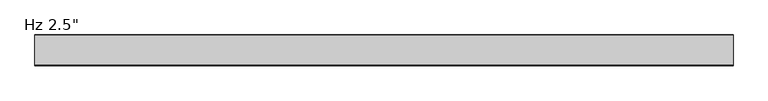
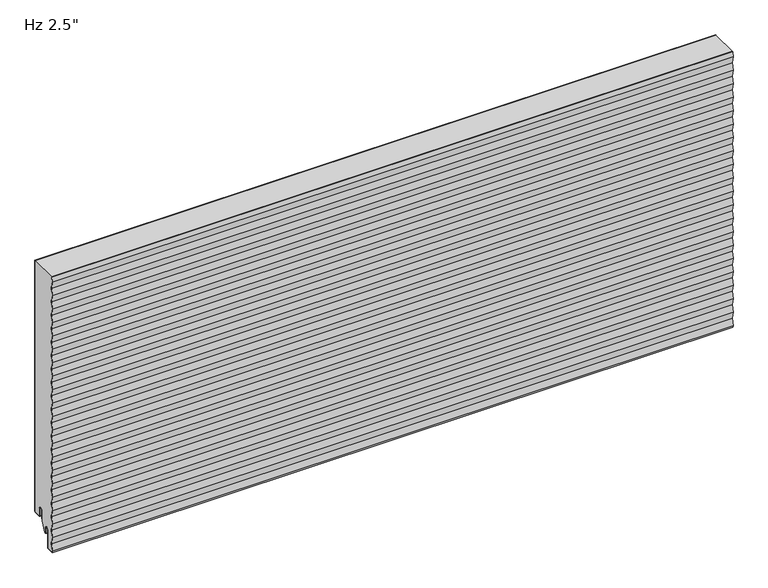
"""IFC4 building model written with IfcOpenShell, lengths in millimetres: plate geometry."""

from ifc_helpers import new_model, si_unit, point, frame, frame_2d, origin, place, context, project, spatial, polyline, circle_curve, trimmed, segment, composite_curve, outline, extrude, source, transform, mapped, element, save


def plate_620f6e40(model_context):
    return source(origin(), model_context, "Body", "SweptSolid", [
        extrude(outline(composite_curve([segment(trimmed(circle_curve(frame_2d((-21.43125, 19.05)), 4.96875), [point((-16.4625, 19.05))], [point((-26.4, 19.05))], True, "CARTESIAN"), True, "CONTINUOUS"), segment(polyline([(-26.4, 19.05), (-26.4, -3.1323422), (-36.5326309, -23.01875), (-38.1, -23.01875), (-38.1, -13.5080174), (-38.89375, -13.5080174), (-38.6875, -11.9205174)]), True, "CONTINUOUS"), segment(trimmed(circle_curve(frame_2d((-43.65625, -11.9205174)), 4.96875), [point((-38.6875, -11.9205174))], [point((-48.625, -11.9205174))], True, "CARTESIAN"), True, "CONTINUOUS"), segment(polyline([(-48.625, -11.9205174), (-48.625, -50.1038221)]), True, "CONTINUOUS"), segment(trimmed(circle_curve(frame_2d((-50.00625, -50.1038221)), 1.38125), [point((-48.625, -50.1038221))], [point((-49.933961, -51.4831791))], False, "CARTESIAN"), True, "CONTINUOUS"), segment(polyline([(-49.933961, -51.4831791), (-63.1062471, -52.1735094), (-63.6378194, -48.8511825), (-61.1994194, -33.6111825), (-63.6378194, -18.3711825), (-61.1994194, -3.1311825), (-63.6378194, 12.1088175), (-61.1994194, 27.3488175), (-63.6378194, 42.5888175), (-61.1994194, 57.8288175), (-63.6378194, 73.0688175), (-61.1994194, 88.3088175), (-63.6378194, 103.5488175), (-61.1994194, 118.7888175), (-63.6378194, 134.0288175), (-61.1994194, 149.2688175), (-63.6378194, 164.5088175), (-61.1994194, 179.7488175), (-63.6378194, 194.9888175), (-61.1994194, 210.2288175), (-63.6378194, 225.4688175), (-61.1994194, 240.7088175), (-63.6378194, 255.9488175), (-61.1994194, 271.1888175), (-63.6378194, 286.4288175), (-61.1994194, 301.6688175), (-63.6378194, 316.9088175), (-61.1994194, 332.1488175), (-63.6378194, 347.3888175), (-61.1994194, 362.6288175), (-63.6378194, 377.8688175), (-61.1994194, 393.1088175), (-63.6378194, 408.3488175), (-61.1994194, 423.5888175), (-63.6378194, 438.8288175), (-61.1994194, 454.0688175), (-63.6378194, 469.3088175), (-61.1994194, 484.5488175), (-63.6378194, 499.7888175), (-61.1994194, 515.0288175), (-63.6378194, 530.2688175), (-61.1994194, 545.5088175), (-63.6378194, 560.7488175), (-61.9656302, 571.2), (-1.0, 571.2), (-1.0, 3.175)]), True, "CONTINUOUS"), segment(trimmed(circle_curve(frame_2d((-2.38125, 3.175)), 1.38125), [point((-1.0, 3.175))], [point((-2.38125, 1.79375))], False, "CARTESIAN"), True, "CONTINUOUS"), segment(polyline([(-2.38125, 1.79375), (-15.08125, 1.79375)]), True, "CONTINUOUS"), segment(trimmed(circle_curve(frame_2d((-15.08125, 3.175)), 1.38125), [point((-15.08125, 1.79375))], [point((-16.4625, 3.175))], False, "CARTESIAN"), True, "CONTINUOUS"), segment(polyline([(-16.4625, 3.175), (-16.4625, 19.05)]), True, "CONTINUOUS")], self_intersect=False)), frame((-730.0, 0.0, 0.0), z_axis=(1.0, 0.0, 0.0), x_axis=(0.0, 1.0, 0.0)), (0.0, 0.0, 1.0), 1460.0),
        extrude(outline(composite_curve([segment(polyline([(-25.4, 0.79375), (-26.4, 0.79375), (-26.4, 19.05)]), True, "CONTINUOUS"), segment(trimmed(circle_curve(frame_2d((-21.43125, 19.05)), 4.96875), [point((-26.4, 19.05))], [point((-16.4625, 19.05))], False, "CARTESIAN"), True, "CONTINUOUS"), segment(polyline([(-16.4625, 19.05), (-16.4625, 3.175)]), True, "CONTINUOUS"), segment(trimmed(circle_curve(frame_2d((-15.08125, 3.175)), 1.38125), [point((-16.4625, 3.175))], [point((-15.08125, 1.79375))], True, "CARTESIAN"), True, "CONTINUOUS"), segment(polyline([(-15.08125, 1.79375), (-2.38125, 1.79375)]), True, "CONTINUOUS"), segment(trimmed(circle_curve(frame_2d((-2.38125, 3.175)), 1.38125), [point((-2.38125, 1.79375))], [point((-1.0, 3.175))], True, "CARTESIAN"), True, "CONTINUOUS"), segment(polyline([(-1.0, 3.175), (-1.0, 571.2), (0.0, 571.2), (0.0, 3.175)]), True, "CONTINUOUS"), segment(trimmed(circle_curve(frame_2d((-2.38125, 3.175)), 2.38125), [point((0.0, 3.175))], [point((-2.38125, 0.79375))], False, "CARTESIAN"), True, "CONTINUOUS"), segment(polyline([(-2.38125, 0.79375), (-15.08125, 0.79375)]), True, "CONTINUOUS"), segment(trimmed(circle_curve(frame_2d((-15.08125, 3.175)), 2.38125), [point((-15.08125, 0.79375))], [point((-17.4625, 3.175))], False, "CARTESIAN"), True, "CONTINUOUS"), segment(polyline([(-17.4625, 3.175), (-17.4625, 19.05)]), True, "CONTINUOUS"), segment(trimmed(circle_curve(frame_2d((-21.43125, 19.05)), 3.96875), [point((-17.4625, 19.05))], [point((-25.4, 19.05))], True, "CARTESIAN"), True, "CONTINUOUS"), segment(polyline([(-25.4, 19.05), (-25.4, 0.79375)]), True, "CONTINUOUS")], self_intersect=False)), frame((-730.0, 0.0, 0.0), z_axis=(1.0, 0.0, 0.0), x_axis=(0.0, 1.0, 0.0)), (0.0, 0.0, 1.0), 1460.0),
        extrude(outline(composite_curve([segment(trimmed(circle_curve(frame_2d((-38.89375, -23.2314549)), 0.79375), [point((-38.1, -23.2314549))], [point((-39.6875, -23.2314549))], False, "CARTESIAN"), True, "CONTINUOUS"), segment(polyline([(-39.6875, -23.2314549), (-39.6875, -11.9205174)]), True, "CONTINUOUS"), segment(trimmed(circle_curve(frame_2d((-43.65625, -11.9205174)), 3.96875), [point((-39.6875, -11.9205174))], [point((-47.625, -11.9205174))], True, "CARTESIAN"), True, "CONTINUOUS"), segment(polyline([(-47.625, -11.9205174), (-47.625, -50.1038221)]), True, "CONTINUOUS"), segment(trimmed(circle_curve(frame_2d((-50.00625, -50.1038221)), 2.38125), [point((-47.625, -50.1038221))], [point((-49.881625, -52.4818086))], False, "CARTESIAN"), True, "CONTINUOUS"), segment(polyline([(-49.881625, -52.4818086), (-64.0543553, -53.22457), (-64.7509395, -48.8709186), (-62.3125395, -33.6309186), (-64.7509395, -18.3909186), (-62.3125395, -3.1509186), (-64.7509395, 12.0890814), (-62.3125395, 27.3290814), (-64.7509395, 42.5690814), (-62.3125395, 57.8090814), (-64.7509395, 73.0490814), (-62.3125395, 88.2890814), (-64.7509395, 103.5290814), (-62.3125395, 118.7690814), (-64.7509395, 134.0090814), (-62.3125395, 149.2490814), (-64.7509395, 164.4890814), (-62.3125395, 179.7290814), (-64.7509395, 194.9690814), (-62.3125395, 210.2090814), (-64.7509395, 225.4490814), (-62.3125395, 240.6890814), (-64.7509395, 255.9290814), (-62.3125395, 271.1690814), (-64.7509395, 286.4090814), (-62.3125395, 301.6490814), (-64.7509395, 316.8890814), (-62.3125395, 332.1290814), (-64.7509395, 347.3690814), (-62.3125395, 362.6090814), (-64.7509395, 377.8490814), (-62.3125395, 393.0890814), (-64.7509395, 408.3290814), (-62.3125395, 423.5690814), (-64.7509395, 438.8090814), (-62.3125395, 454.0490814), (-64.7509395, 469.2890814), (-62.3125395, 484.5290814), (-64.7509395, 499.7690814), (-62.3125395, 515.0090814), (-64.7509395, 530.2490814), (-62.3125395, 545.4890814), (-64.7509395, 560.7290814), (-63.0755925, 571.2), (-62.0628734, 571.2), (-63.7382204, 560.7290814), (-61.2998204, 545.4890814), (-63.7382204, 530.2490814), (-61.2998204, 515.0090814), (-63.7382204, 499.7690814), (-61.2998204, 484.5290814), (-63.7382204, 469.2890814), (-61.2998204, 454.0490814), (-63.7382204, 438.8090814), (-61.2998204, 423.5690814), (-63.7382204, 408.3290814), (-61.2998204, 393.0890814), (-63.7382204, 377.8490814), (-61.2998204, 362.6090814), (-63.7382204, 347.3690814), (-61.2998204, 332.1290814), (-63.7382204, 316.8890814), (-61.2998204, 301.6490814), (-63.7382204, 286.4090814), (-61.2998204, 271.1690814), (-63.7382204, 255.9290814), (-61.2998204, 240.6890814), (-63.7382204, 225.4490814), (-61.2998204, 210.2090814), (-63.7382204, 194.9690814), (-61.2998204, 179.7290814), (-63.7382204, 164.4890814), (-61.2998204, 149.2490814), (-63.7382204, 134.0090814), (-61.2998204, 118.7690814), (-63.7382204, 103.5290814), (-61.2998204, 88.2890814), (-63.7382204, 73.0490814), (-61.2998204, 57.8090814), (-63.7382204, 42.5690814), (-61.2998204, 27.3290814), (-63.7382204, 12.0890814), (-61.2998204, -3.1509186), (-63.7382204, -18.3909186), (-61.2998204, -33.6309186), (-63.7382204, -48.8709186), (-63.2089447, -52.1788915), (-49.933961, -51.4831791)]), True, "CONTINUOUS"), segment(trimmed(circle_curve(frame_2d((-50.00625, -50.1038221)), 1.38125), [point((-49.933961, -51.4831791))], [point((-48.625, -50.1038221))], True, "CARTESIAN"), True, "CONTINUOUS"), segment(polyline([(-48.625, -50.1038221), (-48.625, -11.9205174)]), True, "CONTINUOUS"), segment(trimmed(circle_curve(frame_2d((-43.65625, -11.9205174)), 4.96875), [point((-48.625, -11.9205174))], [point((-38.6875, -11.9205174))], False, "CARTESIAN"), True, "CONTINUOUS"), segment(polyline([(-38.6875, -11.9205174), (-38.89375, -13.5080174), (-38.1, -13.5080174), (-38.1, -23.2314549)]), True, "CONTINUOUS")], self_intersect=False)), frame((-730.0, 0.0, 0.0), z_axis=(1.0, 0.0, 0.0), x_axis=(0.0, 1.0, 0.0)), (0.0, 0.0, 1.0), 1460.0),
    ])


if __name__ == "__main__":
    model = new_model("IFC4")
    model_context = context("Model", 3, world=origin())
    ifc_project = project(units=[si_unit("LENGTHUNIT", "METRE", prefix="MILLI")], contexts=[model_context])
    site = spatial("IfcSite", under=ifc_project)
    building = spatial("IfcBuilding", under=site)
    placement = place(None, origin())
    plate_shape = plate_620f6e40(model_context)
    element("IfcPlate", 1, ObjectType="KIP-36-DWHR-R19-CP-Hz-S : Hz 2.5\"", at=placement, inside=building, context=model_context, shape_type="MappedRepresentation", body=[
        mapped(plate_shape, transform((0.0, 0.0, 0.0), x_axis=(1.0, 0.0, 0.0), y_axis=(0.0, 1.0, 0.0), z_axis=(0.0, 0.0, 1.0))),
    ])
    save(model, "model.ifc")
